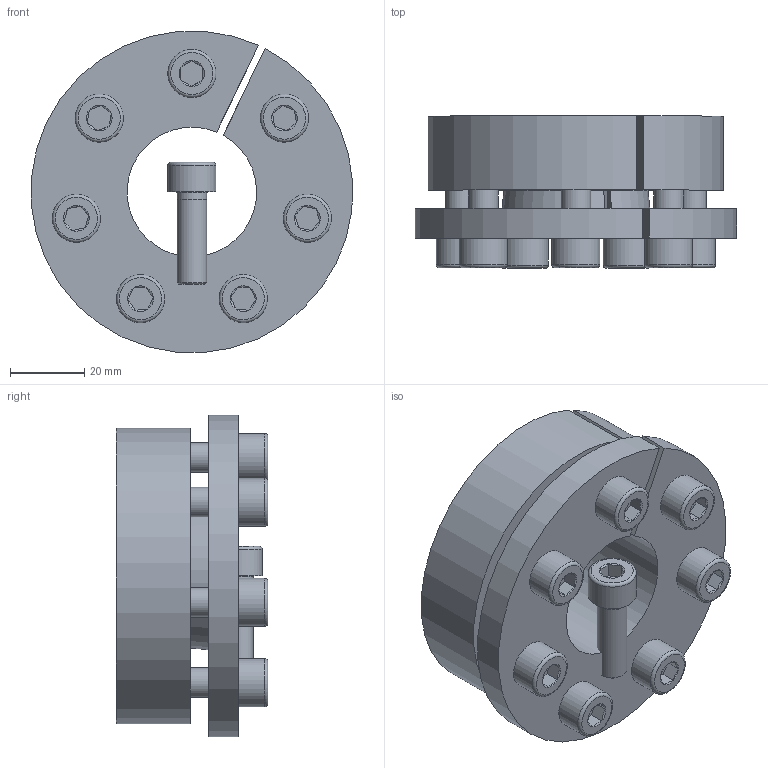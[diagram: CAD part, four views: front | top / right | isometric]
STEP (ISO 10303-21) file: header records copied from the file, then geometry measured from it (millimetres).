
FILE_DESCRIPTION( ( 'Unknown' ), '1' );
FILE_NAME( 'C:/Dokumente und Einstellungen/Sven/Desktop/15/KBS 15 - 35 x 80.stp', 'Unknown', ( 'Unknown' ), ( 'Unknown' ), 'XStep 1.0', 'Unknown', ' ' );
FILE_SCHEMA( ( 'automotive_design' ) );
Length unit declared in the file: millimetre
Products named in the file (3): Assem1; ISO EN DIN 4762 M8x25_19; KBS 15 - 35 x 80_0
Bounding box: 86.78 x 41 x 86.75 mm (x, y, z)
Volume: 242793.2 mm3; surface area: 76845.5 mm2
Topology: 10 solids, 10 shells, 252 faces, 524 edges, 324 vertices
Faces by surface type: plane 110, cylinder 66, cone 60, torus 16
Full cylindrical faces by diameter (mm): 6.647 x14, 7 x8, 8 x16, 9 x14, 13 x8
Entity records: 1694 total; most frequent: CARTESIAN_POINT 272, DIRECTION 260, ORIENTED_EDGE 186, AXIS2_PLACEMENT_3D 115, EDGE_LOOP 104, EDGE_CURVE 93, FACE_OUTER_BOUND 71, VERTEX_POINT 71
